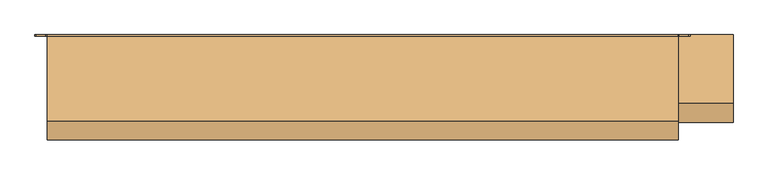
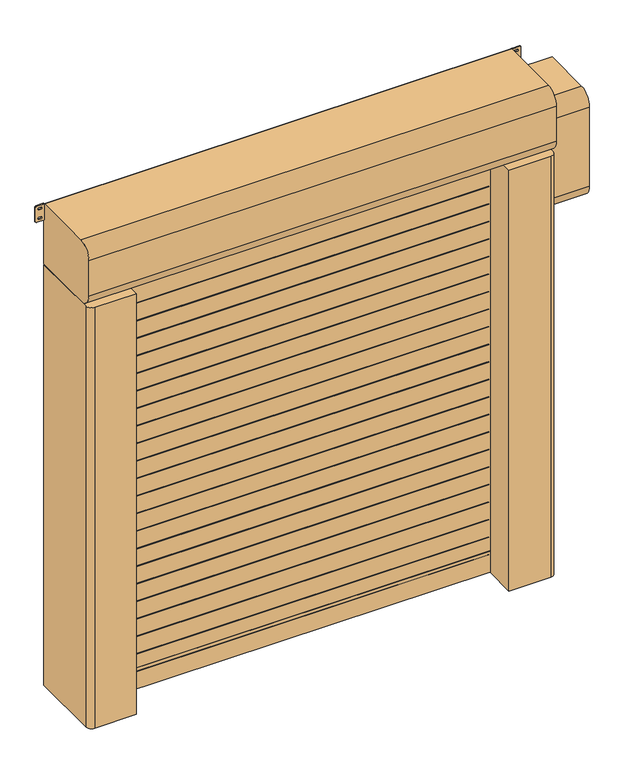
"""IFC4 building model written with IfcOpenShell, lengths in millimetres: door geometry, DO_WPB_Dynamicroll Frigo_Air_BMP : Dynamicroll Frigo1 Air."""

from ifc_helpers import new_model, si_unit, point, frame, frame_2d, origin, origin_with_axes, place, context, project, spatial, polyline, circle_curve, trimmed, segment, composite_curve, outline, extrude, source, transform, mapped, element, save


def door_c5269588(model_context):
    return source(origin(), model_context, "Body", "SweptSolid", [
        extrude(outline(polyline([(-1000.0, -241.5), (-1000.0, -219.5), (1000.0, -219.5), (1000.0, -241.5), (-1000.0, -241.5)])), frame((0.0, 0.0, 2599.0), z_axis=(0.0, 0.0, 1.0), x_axis=(1.0, 0.0, 0.0)), (0.0, 0.0, 1.0), 2.0),
        extrude(outline(polyline([(-1000.0, -241.5), (-1000.0, -219.5), (1000.0, -219.5), (1000.0, -241.5), (-1000.0, -241.5)])), frame((0.0, 0.0, 2499.0), z_axis=(0.0, 0.0, 1.0), x_axis=(1.0, 0.0, 0.0)), (0.0, 0.0, 1.0), 2.0),
        extrude(outline(polyline([(-1000.0, -241.5), (-1000.0, -219.5), (1000.0, -219.5), (1000.0, -241.5), (-1000.0, -241.5)])), frame((0.0, 0.0, 2399.0), z_axis=(0.0, 0.0, 1.0), x_axis=(1.0, 0.0, 0.0)), (0.0, 0.0, 1.0), 2.0),
        extrude(outline(polyline([(-1000.0, -241.5), (-1000.0, -219.5), (1000.0, -219.5), (1000.0, -241.5), (-1000.0, -241.5)])), frame((0.0, 0.0, 2299.0), z_axis=(0.0, 0.0, 1.0), x_axis=(1.0, 0.0, 0.0)), (0.0, 0.0, 1.0), 2.0),
        extrude(outline(polyline([(-1000.0, -241.5), (-1000.0, -219.5), (1000.0, -219.5), (1000.0, -241.5), (-1000.0, -241.5)])), frame((0.0, 0.0, 2199.0), z_axis=(0.0, 0.0, 1.0), x_axis=(1.0, 0.0, 0.0)), (0.0, 0.0, 1.0), 2.0),
        extrude(outline(polyline([(-1000.0, -241.5), (-1000.0, -219.5), (1000.0, -219.5), (1000.0, -241.5), (-1000.0, -241.5)])), frame((0.0, 0.0, 2099.0), z_axis=(0.0, 0.0, 1.0), x_axis=(1.0, 0.0, 0.0)), (0.0, 0.0, 1.0), 2.0),
        extrude(outline(polyline([(-1000.0, -241.5), (-1000.0, -219.5), (1000.0, -219.5), (1000.0, -241.5), (-1000.0, -241.5)])), frame((0.0, 0.0, 1999.0), z_axis=(0.0, 0.0, 1.0), x_axis=(1.0, 0.0, 0.0)), (0.0, 0.0, 1.0), 2.0),
        extrude(outline(polyline([(-1000.0, -241.5), (-1000.0, -219.5), (1000.0, -219.5), (1000.0, -241.5), (-1000.0, -241.5)])), frame((0.0, 0.0, 1899.0), z_axis=(0.0, 0.0, 1.0), x_axis=(1.0, 0.0, 0.0)), (0.0, 0.0, 1.0), 2.0),
        extrude(outline(polyline([(-1000.0, -241.5), (-1000.0, -219.5), (1000.0, -219.5), (1000.0, -241.5), (-1000.0, -241.5)])), frame((0.0, 0.0, 1799.0), z_axis=(0.0, 0.0, 1.0), x_axis=(1.0, 0.0, 0.0)), (0.0, 0.0, 1.0), 2.0),
        extrude(outline(polyline([(-1000.0, -241.5), (-1000.0, -219.5), (1000.0, -219.5), (1000.0, -241.5), (-1000.0, -241.5)])), frame((0.0, 0.0, 1699.0), z_axis=(0.0, 0.0, 1.0), x_axis=(1.0, 0.0, 0.0)), (0.0, 0.0, 1.0), 2.0),
        extrude(outline(polyline([(-1000.0, -241.5), (-1000.0, -219.5), (1000.0, -219.5), (1000.0, -241.5), (-1000.0, -241.5)])), frame((0.0, 0.0, 1599.0), z_axis=(0.0, 0.0, 1.0), x_axis=(1.0, 0.0, 0.0)), (0.0, 0.0, 1.0), 2.0),
        extrude(outline(polyline([(-1000.0, -241.5), (-1000.0, -219.5), (1000.0, -219.5), (1000.0, -241.5), (-1000.0, -241.5)])), frame((0.0, 0.0, 1499.0), z_axis=(0.0, 0.0, 1.0), x_axis=(1.0, 0.0, 0.0)), (0.0, 0.0, 1.0), 2.0),
        extrude(outline(polyline([(-1000.0, -241.5), (-1000.0, -219.5), (1000.0, -219.5), (1000.0, -241.5), (-1000.0, -241.5)])), frame((0.0, 0.0, 1399.0), z_axis=(0.0, 0.0, 1.0), x_axis=(1.0, 0.0, 0.0)), (0.0, 0.0, 1.0), 2.0),
        extrude(outline(polyline([(-1000.0, -241.5), (-1000.0, -219.5), (1000.0, -219.5), (1000.0, -241.5), (-1000.0, -241.5)])), frame((0.0, 0.0, 1299.0), z_axis=(0.0, 0.0, 1.0), x_axis=(1.0, 0.0, 0.0)), (0.0, 0.0, 1.0), 2.0),
        extrude(outline(polyline([(-1000.0, -241.5), (-1000.0, -219.5), (1000.0, -219.5), (1000.0, -241.5), (-1000.0, -241.5)])), frame((0.0, 0.0, 1199.0), z_axis=(0.0, 0.0, 1.0), x_axis=(1.0, 0.0, 0.0)), (0.0, 0.0, 1.0), 2.0),
        extrude(outline(polyline([(-1000.0, -241.5), (-1000.0, -219.5), (1000.0, -219.5), (1000.0, -241.5), (-1000.0, -241.5)])), frame((0.0, 0.0, 1099.0), z_axis=(0.0, 0.0, 1.0), x_axis=(1.0, 0.0, 0.0)), (0.0, 0.0, 1.0), 2.0),
        extrude(outline(polyline([(-1000.0, -241.5), (-1000.0, -219.5), (1000.0, -219.5), (1000.0, -241.5), (-1000.0, -241.5)])), frame((0.0, 0.0, 999.0), z_axis=(0.0, 0.0, 1.0), x_axis=(1.0, 0.0, 0.0)), (0.0, 0.0, 1.0), 2.0),
        extrude(outline(polyline([(-1000.0, -241.5), (-1000.0, -219.5), (1000.0, -219.5), (1000.0, -241.5), (-1000.0, -241.5)])), frame((0.0, 0.0, 899.0), z_axis=(0.0, 0.0, 1.0), x_axis=(1.0, 0.0, 0.0)), (0.0, 0.0, 1.0), 2.0),
        extrude(outline(polyline([(-1000.0, -241.5), (-1000.0, -219.5), (1000.0, -219.5), (1000.0, -241.5), (-1000.0, -241.5)])), frame((0.0, 0.0, 799.0), z_axis=(0.0, 0.0, 1.0), x_axis=(1.0, 0.0, 0.0)), (0.0, 0.0, 1.0), 2.0),
        extrude(outline(polyline([(-1000.0, -241.5), (-1000.0, -219.5), (1000.0, -219.5), (1000.0, -241.5), (-1000.0, -241.5)])), frame((0.0, 0.0, 699.0), z_axis=(0.0, 0.0, 1.0), x_axis=(1.0, 0.0, 0.0)), (0.0, 0.0, 1.0), 2.0),
        extrude(outline(polyline([(-1000.0, -241.5), (-1000.0, -219.5), (1000.0, -219.5), (1000.0, -241.5), (-1000.0, -241.5)])), frame((0.0, 0.0, 599.0), z_axis=(0.0, 0.0, 1.0), x_axis=(1.0, 0.0, 0.0)), (0.0, 0.0, 1.0), 2.0),
        extrude(outline(polyline([(-1000.0, -241.5), (-1000.0, -219.5), (1000.0, -219.5), (1000.0, -241.5), (-1000.0, -241.5)])), frame((0.0, 0.0, 499.0), z_axis=(0.0, 0.0, 1.0), x_axis=(1.0, 0.0, 0.0)), (0.0, 0.0, 1.0), 2.0),
        extrude(outline(polyline([(-1000.0, -241.5), (-1000.0, -219.5), (1000.0, -219.5), (1000.0, -241.5), (-1000.0, -241.5)])), frame((0.0, 0.0, 399.0), z_axis=(0.0, 0.0, 1.0), x_axis=(1.0, 0.0, 0.0)), (0.0, 0.0, 1.0), 2.0),
        extrude(outline(polyline([(-1000.0, -241.5), (-1000.0, -219.5), (1000.0, -219.5), (1000.0, -241.5), (-1000.0, -241.5)])), frame((0.0, 0.0, 299.0), z_axis=(0.0, 0.0, 1.0), x_axis=(1.0, 0.0, 0.0)), (0.0, 0.0, 1.0), 2.0),
        extrude(outline(polyline([(-1000.0, -241.5), (-1000.0, -219.5), (1000.0, -219.5), (1000.0, -241.5), (-1000.0, -241.5)])), frame((0.0, 0.0, 199.0), z_axis=(0.0, 0.0, 1.0), x_axis=(1.0, 0.0, 0.0)), (0.0, 0.0, 1.0), 2.0),
        extrude(outline(polyline([(-1000.0, -241.5), (-1000.0, -219.5), (1000.0, -219.5), (1000.0, -241.5), (-1000.0, -241.5)])), frame((0.0, 0.0, 99.0), z_axis=(0.0, 0.0, 1.0), x_axis=(1.0, 0.0, 0.0)), (0.0, 0.0, 1.0), 2.0),
        extrude(outline(composite_curve([segment(trimmed(circle_curve(frame_2d((1550.0, 1171.0)), 6.0), [point((1556.0, 1171.0))], [point((1544.0, 1171.0))], False, "CARTESIAN"), True, "CONTINUOUS"), segment(polyline([(1544.0, 1171.0), (1544.0, 1189.0)]), True, "CONTINUOUS"), segment(trimmed(circle_curve(frame_2d((1550.0, 1189.0)), 6.0), [point((1544.0, 1189.0))], [point((1556.0, 1189.0))], False, "CARTESIAN"), True, "CONTINUOUS"), segment(polyline([(1556.0, 1189.0), (1556.0, 1171.0)]), True, "CONTINUOUS")], self_intersect=False)), frame((0.0, -20.0, 0.0), z_axis=(0.0, 1.0, 0.0), x_axis=(0.0, 0.0, 1.0)), (0.0, 0.0, 1.0), 20.0),
        extrude(outline(composite_curve([segment(trimmed(circle_curve(frame_2d((850.0, 1171.0)), 6.0), [point((856.0, 1171.0))], [point((844.0, 1171.0))], False, "CARTESIAN"), True, "CONTINUOUS"), segment(polyline([(844.0, 1171.0), (844.0, 1189.0)]), True, "CONTINUOUS"), segment(trimmed(circle_curve(frame_2d((850.0, 1189.0)), 6.0), [point((844.0, 1189.0))], [point((856.0, 1189.0))], False, "CARTESIAN"), True, "CONTINUOUS"), segment(polyline([(856.0, 1189.0), (856.0, 1171.0)]), True, "CONTINUOUS")], self_intersect=False)), frame((0.0, -20.0, 0.0), z_axis=(0.0, 1.0, 0.0), x_axis=(0.0, 0.0, 1.0)), (0.0, 0.0, 1.0), 20.0),
        extrude(outline(composite_curve([segment(trimmed(circle_curve(frame_2d((2250.0, 1171.0)), 6.0), [point((2256.0, 1171.0))], [point((2244.0, 1171.0))], False, "CARTESIAN"), True, "CONTINUOUS"), segment(polyline([(2244.0, 1171.0), (2244.0, 1189.0)]), True, "CONTINUOUS"), segment(trimmed(circle_curve(frame_2d((2250.0, 1189.0)), 6.0), [point((2244.0, 1189.0))], [point((2256.0, 1189.0))], False, "CARTESIAN"), True, "CONTINUOUS"), segment(polyline([(2256.0, 1189.0), (2256.0, 1171.0)]), True, "CONTINUOUS")], self_intersect=False)), frame((0.0, -20.0, 0.0), z_axis=(0.0, 1.0, 0.0), x_axis=(0.0, 0.0, 1.0)), (0.0, 0.0, 1.0), 20.0),
        extrude(outline(composite_curve([segment(trimmed(circle_curve(frame_2d((150.0, 1171.0)), 6.0), [point((156.0, 1171.0))], [point((144.0, 1171.0))], False, "CARTESIAN"), True, "CONTINUOUS"), segment(polyline([(144.0, 1171.0), (144.0, 1189.0)]), True, "CONTINUOUS"), segment(trimmed(circle_curve(frame_2d((150.0, 1189.0)), 6.0), [point((144.0, 1189.0))], [point((156.0, 1189.0))], False, "CARTESIAN"), True, "CONTINUOUS"), segment(polyline([(156.0, 1189.0), (156.0, 1171.0)]), True, "CONTINUOUS")], self_intersect=False)), frame((0.0, -20.0, 0.0), z_axis=(0.0, 1.0, 0.0), x_axis=(0.0, 0.0, 1.0)), (0.0, 0.0, 1.0), 20.0),
        extrude(outline(composite_curve([segment(polyline([(1556.0, -1171.0), (1556.0, -1189.0)]), True, "CONTINUOUS"), segment(trimmed(circle_curve(frame_2d((1550.0, -1189.0)), 6.0), [point((1556.0, -1189.0))], [point((1544.0, -1189.0))], False, "CARTESIAN"), True, "CONTINUOUS"), segment(polyline([(1544.0, -1189.0), (1544.0, -1171.0)]), True, "CONTINUOUS"), segment(trimmed(circle_curve(frame_2d((1550.0, -1171.0)), 6.0), [point((1544.0, -1171.0))], [point((1556.0, -1171.0))], False, "CARTESIAN"), True, "CONTINUOUS")], self_intersect=False)), frame((0.0, -20.0, 0.0), z_axis=(0.0, 1.0, 0.0), x_axis=(0.0, 0.0, 1.0)), (0.0, 0.0, 1.0), 20.0),
        extrude(outline(composite_curve([segment(polyline([(856.0, -1171.0), (856.0, -1189.0)]), True, "CONTINUOUS"), segment(trimmed(circle_curve(frame_2d((850.0, -1189.0)), 6.0), [point((856.0, -1189.0))], [point((844.0, -1189.0))], False, "CARTESIAN"), True, "CONTINUOUS"), segment(polyline([(844.0, -1189.0), (844.0, -1171.0)]), True, "CONTINUOUS"), segment(trimmed(circle_curve(frame_2d((850.0, -1171.0)), 6.0), [point((844.0, -1171.0))], [point((856.0, -1171.0))], False, "CARTESIAN"), True, "CONTINUOUS")], self_intersect=False)), frame((0.0, -20.0, 0.0), z_axis=(0.0, 1.0, 0.0), x_axis=(0.0, 0.0, 1.0)), (0.0, 0.0, 1.0), 20.0),
        extrude(outline(composite_curve([segment(polyline([(2256.0, -1171.0), (2256.0, -1189.0)]), True, "CONTINUOUS"), segment(trimmed(circle_curve(frame_2d((2250.0, -1189.0)), 6.0), [point((2256.0, -1189.0))], [point((2244.0, -1189.0))], False, "CARTESIAN"), True, "CONTINUOUS"), segment(polyline([(2244.0, -1189.0), (2244.0, -1171.0)]), True, "CONTINUOUS"), segment(trimmed(circle_curve(frame_2d((2250.0, -1171.0)), 6.0), [point((2244.0, -1171.0))], [point((2256.0, -1171.0))], False, "CARTESIAN"), True, "CONTINUOUS")], self_intersect=False)), frame((0.0, -20.0, 0.0), z_axis=(0.0, 1.0, 0.0), x_axis=(0.0, 0.0, 1.0)), (0.0, 0.0, 1.0), 20.0),
        extrude(outline(composite_curve([segment(polyline([(156.0, -1171.0), (156.0, -1189.0)]), True, "CONTINUOUS"), segment(trimmed(circle_curve(frame_2d((150.0, -1189.0)), 6.0), [point((156.0, -1189.0))], [point((144.0, -1189.0))], False, "CARTESIAN"), True, "CONTINUOUS"), segment(polyline([(144.0, -1189.0), (144.0, -1171.0)]), True, "CONTINUOUS"), segment(trimmed(circle_curve(frame_2d((150.0, -1171.0)), 6.0), [point((144.0, -1171.0))], [point((156.0, -1171.0))], False, "CARTESIAN"), True, "CONTINUOUS")], self_intersect=False)), frame((0.0, -20.0, 0.0), z_axis=(0.0, 1.0, 0.0), x_axis=(0.0, 0.0, 1.0)), (0.0, 0.0, 1.0), 20.0),
        extrude(outline(polyline([(-1012.0, -221.5), (1012.0, -221.5), (1012.0, -239.5), (-1012.0, -239.5), (-1012.0, -221.5)])), frame((0.0, 0.0, 120.0), z_axis=(0.0, 0.0, 1.0), x_axis=(1.0, 0.0, 0.0)), (0.0, 0.0, 1.0), 2455.0),
        extrude(outline(polyline([(-1012.0, -219.5), (1012.0, -219.5), (1012.0, -241.5), (-1012.0, -241.5), (-1012.0, -219.5)])), origin_with_axes(), (0.0, 0.0, 1.0), 120.0),
        extrude(outline(composite_curve([segment(polyline([(-1260.0, 0.0), (-1015.0, 0.0), (-1015.0, -209.2857143), (-1035.0, -215.0), (-1000.0, -215.0), (-1000.0, -221.5), (-1020.0, -221.5), (-1020.0, -228.5), (-1000.0, -228.5), (-1000.0, -235.0), (-1035.0, -235.0), (-1035.0, -250.0), (-1005.0, -250.0), (-1005.0, -420.0), (-1230.0, -420.0)]), True, "CONTINUOUS"), segment(trimmed(circle_curve(frame_2d((-1230.0, -390.0)), 30.0), [point((-1230.0, -420.0))], [point((-1260.0, -390.0))], False, "CARTESIAN"), True, "CONTINUOUS"), segment(polyline([(-1260.0, -390.0), (-1260.0, 0.0)]), True, "CONTINUOUS")], self_intersect=False)), origin_with_axes(), (0.0, 0.0, 1.0), 2400.0),
        extrude(outline(composite_curve([segment(polyline([(1260.0, 0.0), (1260.0, -390.0)]), True, "CONTINUOUS"), segment(trimmed(circle_curve(frame_2d((1230.0, -390.0)), 30.0), [point((1260.0, -390.0))], [point((1230.0, -420.0))], False, "CARTESIAN"), True, "CONTINUOUS"), segment(polyline([(1230.0, -420.0), (1005.0, -420.0), (1005.0, -250.0), (1035.0, -250.0), (1035.0, -235.0), (1000.0, -235.0), (1000.0, -228.5), (1020.0, -228.5), (1020.0, -221.5), (1000.0, -221.5), (1000.0, -215.0), (1035.0, -215.0), (1015.0, -209.2857143), (1015.0, 0.0), (1260.0, 0.0)]), True, "CONTINUOUS")], self_intersect=False)), origin_with_axes(), (0.0, 0.0, 1.0), 2400.0),
        extrude(outline(composite_curve([segment(trimmed(circle_curve(frame_2d((-5.0, 2405.0)), 5.0), [point((0.0, 2405.0))], [point((-5.0, 2400.0))], False, "CARTESIAN"), True, "CONTINUOUS"), segment(polyline([(-5.0, 2400.0), (-345.0, 2400.0)]), True, "CONTINUOUS"), segment(trimmed(circle_curve(frame_2d((-345.0, 2475.0)), 75.0), [point((-345.0, 2400.0))], [point((-420.0, 2475.0))], False, "CARTESIAN"), True, "CONTINUOUS"), segment(polyline([(-420.0, 2475.0), (-420.0, 2675.0)]), True, "CONTINUOUS"), segment(trimmed(circle_curve(frame_2d((-345.0, 2675.0)), 75.0), [point((-420.0, 2675.0))], [point((-345.0, 2750.0))], False, "CARTESIAN"), True, "CONTINUOUS"), segment(polyline([(-345.0, 2750.0), (-5.0, 2750.0)]), True, "CONTINUOUS"), segment(trimmed(circle_curve(frame_2d((-5.0, 2745.0)), 5.0), [point((-5.0, 2750.0))], [point((0.0, 2745.0))], False, "CARTESIAN"), True, "CONTINUOUS"), segment(polyline([(0.0, 2745.0), (0.0, 2405.0)]), True, "CONTINUOUS")], self_intersect=False)), frame((-1260.0, 0.0, 0.0), z_axis=(1.0, 0.0, 0.0), x_axis=(0.0, 1.0, 0.0)), (0.0, 0.0, 1.0), 2520.0),
        extrude(outline(composite_curve([segment(trimmed(circle_curve(frame_2d((2663.75, 1265.75)), 5.75), [point((2663.75, 1260.0))], [point((2658.0, 1265.75))], False, "CARTESIAN"), True, "CONTINUOUS"), segment(polyline([(2658.0, 1265.75), (2658.0, 1303.25)]), True, "CONTINUOUS"), segment(trimmed(circle_curve(frame_2d((2663.75, 1303.25)), 5.75), [point((2658.0, 1303.25))], [point((2663.75, 1309.0))], False, "CARTESIAN"), True, "CONTINUOUS"), segment(polyline([(2663.75, 1309.0), (2744.25, 1309.0)]), True, "CONTINUOUS"), segment(trimmed(circle_curve(frame_2d((2744.25, 1303.25)), 5.75), [point((2744.25, 1309.0))], [point((2750.0, 1303.25))], False, "CARTESIAN"), True, "CONTINUOUS"), segment(polyline([(2750.0, 1303.25), (2750.0, 1265.75)]), True, "CONTINUOUS"), segment(trimmed(circle_curve(frame_2d((2744.25, 1265.75)), 5.75), [point((2750.0, 1265.75))], [point((2744.25, 1260.0))], False, "CARTESIAN"), True, "CONTINUOUS"), segment(polyline([(2744.25, 1260.0), (2663.75, 1260.0)]), True, "CONTINUOUS")], self_intersect=False), holes=[composite_curve([segment(trimmed(circle_curve(frame_2d((2731.5, 1288.75)), 5.75), [point((2737.25, 1288.75))], [point((2725.75, 1288.75))], True, "CARTESIAN"), True, "CONTINUOUS"), segment(polyline([(2725.75, 1288.75), (2725.75, 1280.25)]), True, "CONTINUOUS"), segment(trimmed(circle_curve(frame_2d((2731.5, 1280.25)), 5.75), [point((2725.75, 1280.25))], [point((2737.25, 1280.25))], True, "CARTESIAN"), True, "CONTINUOUS"), segment(polyline([(2737.25, 1280.25), (2737.25, 1288.75)]), True, "CONTINUOUS")], self_intersect=False), composite_curve([segment(trimmed(circle_curve(frame_2d((2676.5, 1288.75)), 5.75), [point((2682.25, 1288.75))], [point((2670.75, 1288.75))], True, "CARTESIAN"), True, "CONTINUOUS"), segment(polyline([(2670.75, 1288.75), (2670.75, 1280.25)]), True, "CONTINUOUS"), segment(trimmed(circle_curve(frame_2d((2676.5, 1280.25)), 5.75), [point((2670.75, 1280.25))], [point((2682.25, 1280.25))], True, "CARTESIAN"), True, "CONTINUOUS"), segment(polyline([(2682.25, 1280.25), (2682.25, 1288.75)]), True, "CONTINUOUS")], self_intersect=False)]), frame((0.0, -5.0, 0.0), z_axis=(0.0, 1.0, 0.0), x_axis=(0.0, 0.0, 1.0)), (0.0, 0.0, 1.0), 5.0),
        extrude(outline(composite_curve([segment(trimmed(circle_curve(frame_2d((2663.75, -1303.25)), 5.75), [point((2663.75, -1309.0))], [point((2658.0, -1303.25))], False, "CARTESIAN"), True, "CONTINUOUS"), segment(polyline([(2658.0, -1303.25), (2658.0, -1265.75)]), True, "CONTINUOUS"), segment(trimmed(circle_curve(frame_2d((2663.75, -1265.75)), 5.75), [point((2658.0, -1265.75))], [point((2663.75, -1260.0))], False, "CARTESIAN"), True, "CONTINUOUS"), segment(polyline([(2663.75, -1260.0), (2744.25, -1260.0)]), True, "CONTINUOUS"), segment(trimmed(circle_curve(frame_2d((2744.25, -1265.75)), 5.75), [point((2744.25, -1260.0))], [point((2750.0, -1265.75))], False, "CARTESIAN"), True, "CONTINUOUS"), segment(polyline([(2750.0, -1265.75), (2750.0, -1303.25)]), True, "CONTINUOUS"), segment(trimmed(circle_curve(frame_2d((2744.25, -1303.25)), 5.75), [point((2750.0, -1303.25))], [point((2744.25, -1309.0))], False, "CARTESIAN"), True, "CONTINUOUS"), segment(polyline([(2744.25, -1309.0), (2663.75, -1309.0)]), True, "CONTINUOUS")], self_intersect=False), holes=[composite_curve([segment(trimmed(circle_curve(frame_2d((2731.5, -1280.25)), 5.75), [point((2737.25, -1280.25))], [point((2725.75, -1280.25))], True, "CARTESIAN"), True, "CONTINUOUS"), segment(polyline([(2725.75, -1280.25), (2725.75, -1288.75)]), True, "CONTINUOUS"), segment(trimmed(circle_curve(frame_2d((2731.5, -1288.75)), 5.75), [point((2725.75, -1288.75))], [point((2737.25, -1288.75))], True, "CARTESIAN"), True, "CONTINUOUS"), segment(polyline([(2737.25, -1288.75), (2737.25, -1280.25)]), True, "CONTINUOUS")], self_intersect=False), composite_curve([segment(trimmed(circle_curve(frame_2d((2676.5, -1280.25)), 5.75), [point((2682.25, -1280.25))], [point((2670.75, -1280.25))], True, "CARTESIAN"), True, "CONTINUOUS"), segment(polyline([(2670.75, -1280.25), (2670.75, -1288.75)]), True, "CONTINUOUS"), segment(trimmed(circle_curve(frame_2d((2676.5, -1288.75)), 5.75), [point((2670.75, -1288.75))], [point((2682.25, -1288.75))], True, "CARTESIAN"), True, "CONTINUOUS"), segment(polyline([(2682.25, -1288.75), (2682.25, -1280.25)]), True, "CONTINUOUS")], self_intersect=False)]), frame((0.0, -5.0, 0.0), z_axis=(0.0, 1.0, 0.0), x_axis=(0.0, 0.0, 1.0)), (0.0, 0.0, 1.0), 5.0),
        extrude(outline(composite_curve([segment(polyline([(0.0, 2625.0), (0.0, 2025.0), (-275.0, 2025.0)]), True, "CONTINUOUS"), segment(trimmed(circle_curve(frame_2d((-275.0, 2100.0)), 75.0), [point((-275.0, 2025.0))], [point((-350.0, 2100.0))], False, "CARTESIAN"), True, "CONTINUOUS"), segment(polyline([(-350.0, 2100.0), (-350.0, 2550.0)]), True, "CONTINUOUS"), segment(trimmed(circle_curve(frame_2d((-275.0, 2550.0)), 75.0), [point((-350.0, 2550.0))], [point((-275.0, 2625.0))], False, "CARTESIAN"), True, "CONTINUOUS"), segment(polyline([(-275.0, 2625.0), (0.0, 2625.0)]), True, "CONTINUOUS")], self_intersect=False)), frame((1260.0, 0.0, 0.0), z_axis=(1.0, 0.0, 0.0), x_axis=(0.0, 1.0, 0.0)), (0.0, 0.0, 1.0), 220.0),
    ])


if __name__ == "__main__":
    model = new_model("IFC4")
    model_context = context("Model", 3, world=origin())
    ifc_project = project(units=[si_unit("LENGTHUNIT", "METRE", prefix="MILLI")], contexts=[model_context])
    site = spatial("IfcSite", under=ifc_project)
    building = spatial("IfcBuilding", under=site)
    placement = place(None, origin())
    door_shape = door_c5269588(model_context)
    element("IfcDoor", 1, ObjectType="DO_WPB_Dynamicroll Frigo_Air_BMP : Dynamicroll Frigo1 Air", at=placement, inside=building, context=model_context, shape_type="MappedRepresentation", body=[
        mapped(door_shape, transform((0.0, 0.0, 0.0), x_axis=(1.0, 0.0, 0.0), y_axis=(0.0, 1.0, 0.0), z_axis=(0.0, 0.0, 1.0))),
    ])
    save(model, "model.ifc")
